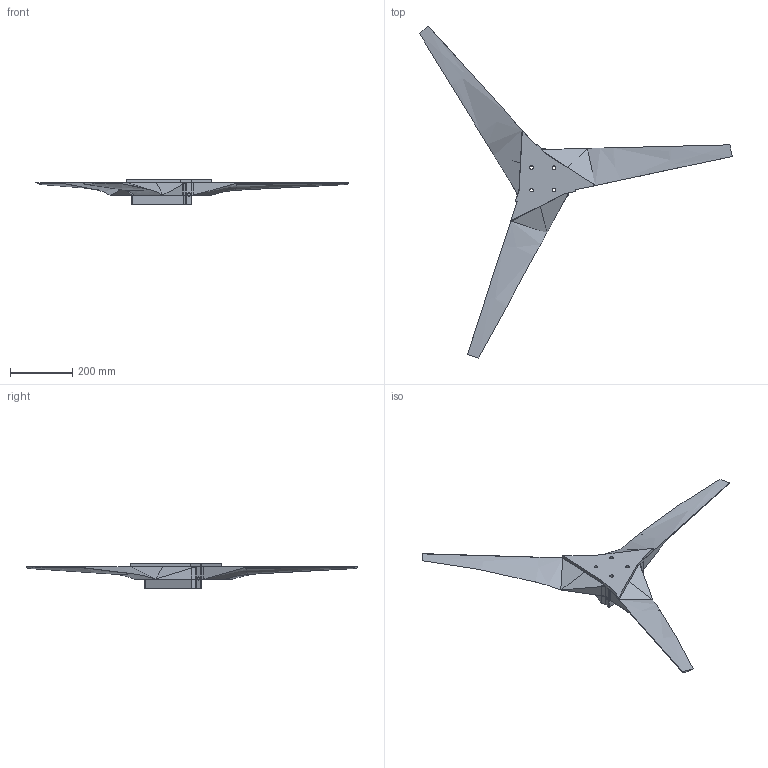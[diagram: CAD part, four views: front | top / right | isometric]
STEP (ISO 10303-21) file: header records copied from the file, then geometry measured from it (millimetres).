
FILE_DESCRIPTION(('CATIA V5 STEP Exchange','CAx-IF Rec.Pracs.--- Model Styling and Organization---1.4--- 2014-01-23','CAx-IF Rec.Pracs.---3D Tessellated Data Validation Properties---0.5---2014-09-14'),'2;1');
FILE_NAME('H:\Maskiningenjör\Examensarbete\Klart\Klart & Skickas\STL - 3D\AssemblyBlad_OriginalDesign.stp','2019-06-11T09:32:28+00:00',('none'),('none'),'CATIA Version 5-6 Release 2018 SP3','CATIA V5 STEP AP242','none');
FILE_SCHEMA(('AP242_MANAGED_MODEL_BASED_3D_ENGINEERING_MIM_LF {1 0 10303 442 1 1 4}'));
Length unit declared in the file: millimetre
Products named in the file (6): Product1; Part6; Part6.1; Part6.2; FlatHub_OldDesign; Undersida_Nav_3
Assembly tree (5 placements, depth 2):
  Product1
    Part6
    Part6.1
    Part6.2
    FlatHub_OldDesign
    Undersida_Nav_3
Bounding box: 1003.69 x 1065.84 x 80 mm (x, y, z)
Volume: 3921422.9 mm3; surface area: 558671.8 mm2
Topology: 5 solids, 5 shells, 175 faces, 441 edges, 280 vertices
Faces by surface type: plane 107, cylinder 38, bspline 30
Entity records: 10932 total; most frequent: CARTESIAN_POINT 6918, ORIENTED_EDGE 882, DIRECTION 619, EDGE_CURVE 441, VECTOR 280, LINE 280, VERTEX_POINT 280, EDGE_LOOP 209
